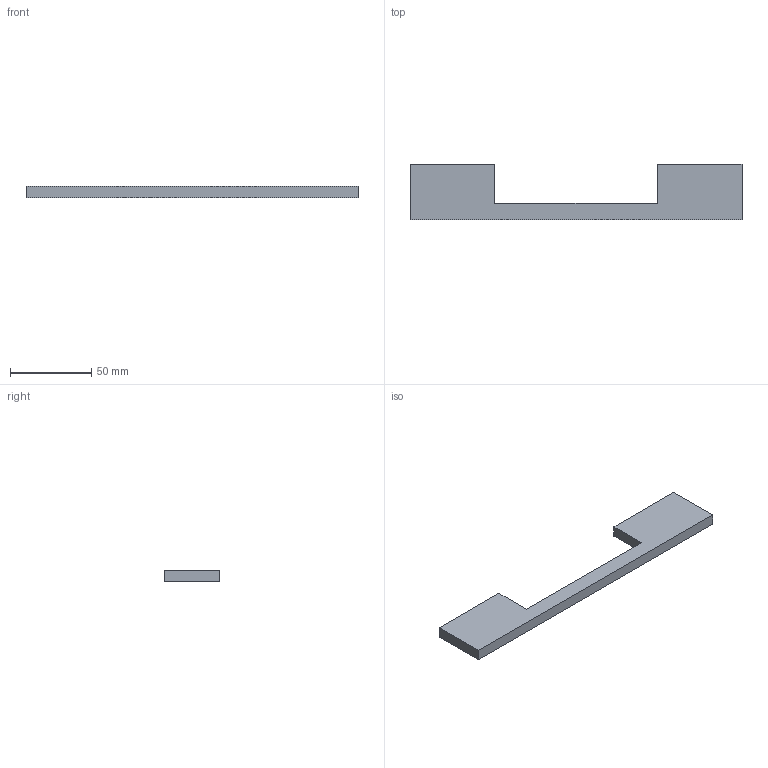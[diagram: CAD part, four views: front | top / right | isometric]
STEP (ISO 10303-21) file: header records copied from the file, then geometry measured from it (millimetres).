
FILE_DESCRIPTION( ( 'STEP AP214' ), '1' );
FILE_NAME( 'D:/D Drive/Yug/2023/ProDecor/Handle_Velitra/QC/115018.stp', '2023-06-05T09:59:04', ( '' ), ( '' ), ' ', 'PARTsolutions', ' ' );
FILE_SCHEMA( ( 'AUTOMOTIVE_DESIGN { 1 0 10303 214 1 1 1 1 }' ) );
Length unit declared in the file: millimetre
Products named in the file (1): _115018
Bounding box: 204 x 34 x 7 mm (x, y, z)
Volume: 31249.3 mm3; surface area: 13242.7 mm2
Topology: 1 solids, 1 shells, 18 faces, 36 edges, 24 vertices
Faces by surface type: plane 14, cylinder 4
Full cylindrical faces by diameter (mm): 4 x4
Entity records: 608 total; most frequent: DIRECTION 78, CARTESIAN_POINT 75, ORIENTED_EDGE 64, EDGE_CURVE 32, AXIS2_PLACEMENT_3D 27, EDGE_LOOP 26, VERTEX_POINT 24, LINE 24
